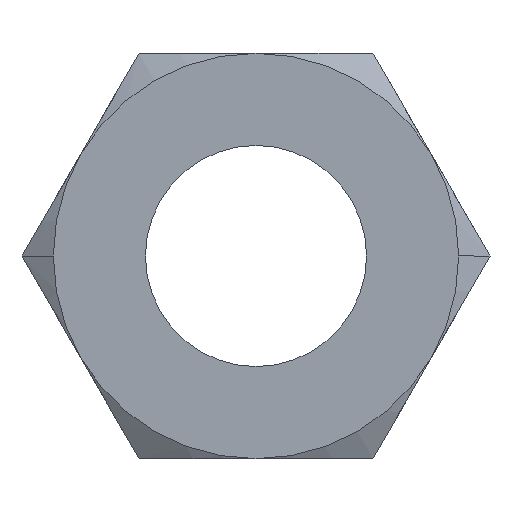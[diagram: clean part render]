
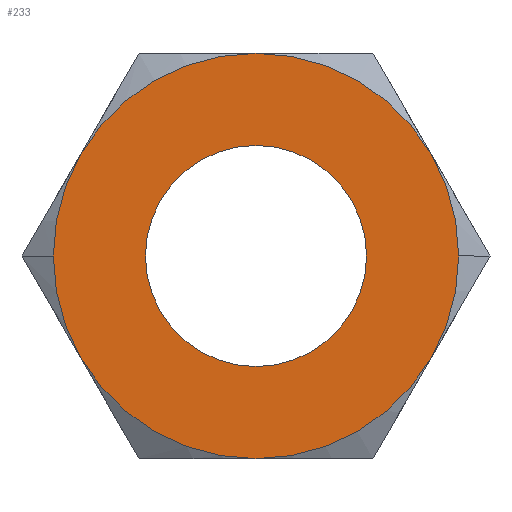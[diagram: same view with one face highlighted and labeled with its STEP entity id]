
A CAD part, left-side view. The second image highlights one B-rep face of the part: STEP entity #233.
In plain terms, the highlighted planar face has unit normal (-1, 0, 0).
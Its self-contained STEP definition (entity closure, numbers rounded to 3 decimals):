
#233 = ADVANCED_FACE( '', ( #425, #426 ), #427, .T. );
#425 = FACE_BOUND( '', #683, .T. );
#426 = FACE_OUTER_BOUND( '', #684, .T. );
#427 = PLANE( '', #685 );
#683 = EDGE_LOOP( '', ( #1256, #1257 ) );
#684 = EDGE_LOOP( '', ( #1258, #1259, #1260, #1261, #1262, #1263, #1264, #1265 ) );
#685 = AXIS2_PLACEMENT_3D( '', #1266, #1267, #1268 );
#1256 = ORIENTED_EDGE( '', *, *, #1847, .F. );
#1257 = ORIENTED_EDGE( '', *, *, #1715, .F. );
#1258 = ORIENTED_EDGE( '', *, *, #1836, .T. );
#1259 = ORIENTED_EDGE( '', *, *, #1739, .T. );
#1260 = ORIENTED_EDGE( '', *, *, #1831, .T. );
#1261 = ORIENTED_EDGE( '', *, *, #1832, .T. );
#1262 = ORIENTED_EDGE( '', *, *, #1741, .T. );
#1263 = ORIENTED_EDGE( '', *, *, #1833, .T. );
#1264 = ORIENTED_EDGE( '', *, *, #1834, .T. );
#1265 = ORIENTED_EDGE( '', *, *, #1835, .T. );
#1266 = CARTESIAN_POINT( '', ( -45., 8.5, 0. ) );
#1267 = DIRECTION( '', ( -1., 0., 0. ) );
#1268 = DIRECTION( '', ( 0., 1., 0. ) );
#1715 = EDGE_CURVE( '', #1981, #1977, #1983, .T. );
#1739 = EDGE_CURVE( '', #2024, #2026, #2028, .T. );
#1741 = EDGE_CURVE( '', #2032, #2029, #2033, .T. );
#1831 = EDGE_CURVE( '', #2026, #2097, #2173, .T. );
#1832 = EDGE_CURVE( '', #2097, #2032, #2174, .T. );
#1833 = EDGE_CURVE( '', #2029, #2077, #2175, .T. );
#1834 = EDGE_CURVE( '', #2077, #2092, #2176, .T. );
#1835 = EDGE_CURVE( '', #2092, #2119, #2177, .T. );
#1836 = EDGE_CURVE( '', #2119, #2024, #2178, .T. );
#1847 = EDGE_CURVE( '', #1977, #1981, #2189, .T. );
#1977 = VERTEX_POINT( '', #2391 );
#1981 = VERTEX_POINT( '', #2396 );
#1983 = CIRCLE( '', #2399, 6. );
#2024 = VERTEX_POINT( '', #2452 );
#2026 = VERTEX_POINT( '', #2455 );
#2028 = CIRCLE( '', #2466, 11. );
#2029 = VERTEX_POINT( '', #2467 );
#2032 = VERTEX_POINT( '', #2471 );
#2033 = CIRCLE( '', #2472, 11. );
#2077 = VERTEX_POINT( '', #2604 );
#2092 = VERTEX_POINT( '', #2676 );
#2097 = VERTEX_POINT( '', #2708 );
#2119 = VERTEX_POINT( '', #2806 );
#2173 = CIRCLE( '', #3053, 11. );
#2174 = CIRCLE( '', #3054, 11. );
#2175 = CIRCLE( '', #3055, 11. );
#2176 = CIRCLE( '', #3056, 11. );
#2177 = CIRCLE( '', #3057, 11. );
#2178 = CIRCLE( '', #3058, 11. );
#2189 = CIRCLE( '', #3069, 6. );
#2391 = CARTESIAN_POINT( '', ( -45., 6., 0. ) );
#2396 = CARTESIAN_POINT( '', ( -45., -6., 0. ) );
#2399 = AXIS2_PLACEMENT_3D( '', #3739, #3740, #3741 );
#2452 = CARTESIAN_POINT( '', ( -45., 11., 0. ) );
#2455 = CARTESIAN_POINT( '', ( -45., 9.526, -5.5 ) );
#2466 = AXIS2_PLACEMENT_3D( '', #3782, #3783, #3784 );
#2467 = CARTESIAN_POINT( '', ( -45., -11., 0. ) );
#2471 = CARTESIAN_POINT( '', ( -45., -9.526, -5.5 ) );
#2472 = AXIS2_PLACEMENT_3D( '', #3786, #3787, #3788 );
#2604 = CARTESIAN_POINT( '', ( -45., -9.526, 5.5 ) );
#2676 = CARTESIAN_POINT( '', ( -45., 0., 11. ) );
#2708 = CARTESIAN_POINT( '', ( -45., 0., -11. ) );
#2806 = CARTESIAN_POINT( '', ( -45., 9.526, 5.5 ) );
#3053 = AXIS2_PLACEMENT_3D( '', #3879, #3880, #3881 );
#3054 = AXIS2_PLACEMENT_3D( '', #3882, #3883, #3884 );
#3055 = AXIS2_PLACEMENT_3D( '', #3885, #3886, #3887 );
#3056 = AXIS2_PLACEMENT_3D( '', #3888, #3889, #3890 );
#3057 = AXIS2_PLACEMENT_3D( '', #3891, #3892, #3893 );
#3058 = AXIS2_PLACEMENT_3D( '', #3894, #3895, #3896 );
#3069 = AXIS2_PLACEMENT_3D( '', #3927, #3928, #3929 );
#3739 = CARTESIAN_POINT( '', ( -45., 0., 0. ) );
#3740 = DIRECTION( '', ( -1., 0., 0. ) );
#3741 = DIRECTION( '', ( 0., 1., 0. ) );
#3782 = CARTESIAN_POINT( '', ( -45., 0., 0. ) );
#3783 = DIRECTION( '', ( -1., 0., 0. ) );
#3784 = DIRECTION( '', ( 0., 1., 0. ) );
#3786 = CARTESIAN_POINT( '', ( -45., 0., 0. ) );
#3787 = DIRECTION( '', ( -1., 0., 0. ) );
#3788 = DIRECTION( '', ( 0., 1., 0. ) );
#3879 = CARTESIAN_POINT( '', ( -45., 0., 0. ) );
#3880 = DIRECTION( '', ( -1., 0., 0. ) );
#3881 = DIRECTION( '', ( 0., 1., 0. ) );
#3882 = CARTESIAN_POINT( '', ( -45., 0., 0. ) );
#3883 = DIRECTION( '', ( -1., 0., 0. ) );
#3884 = DIRECTION( '', ( 0., 1., 0. ) );
#3885 = CARTESIAN_POINT( '', ( -45., 0., 0. ) );
#3886 = DIRECTION( '', ( -1., 0., 0. ) );
#3887 = DIRECTION( '', ( 0., 1., 0. ) );
#3888 = CARTESIAN_POINT( '', ( -45., 0., 0. ) );
#3889 = DIRECTION( '', ( -1., 0., 0. ) );
#3890 = DIRECTION( '', ( 0., 1., 0. ) );
#3891 = CARTESIAN_POINT( '', ( -45., 0., 0. ) );
#3892 = DIRECTION( '', ( -1., 0., 0. ) );
#3893 = DIRECTION( '', ( 0., 1., 0. ) );
#3894 = CARTESIAN_POINT( '', ( -45., 0., 0. ) );
#3895 = DIRECTION( '', ( -1., 0., 0. ) );
#3896 = DIRECTION( '', ( 0., 1., 0. ) );
#3927 = CARTESIAN_POINT( '', ( -45., 0., 0. ) );
#3928 = DIRECTION( '', ( -1., 0., 0. ) );
#3929 = DIRECTION( '', ( 0., 1., 0. ) );
